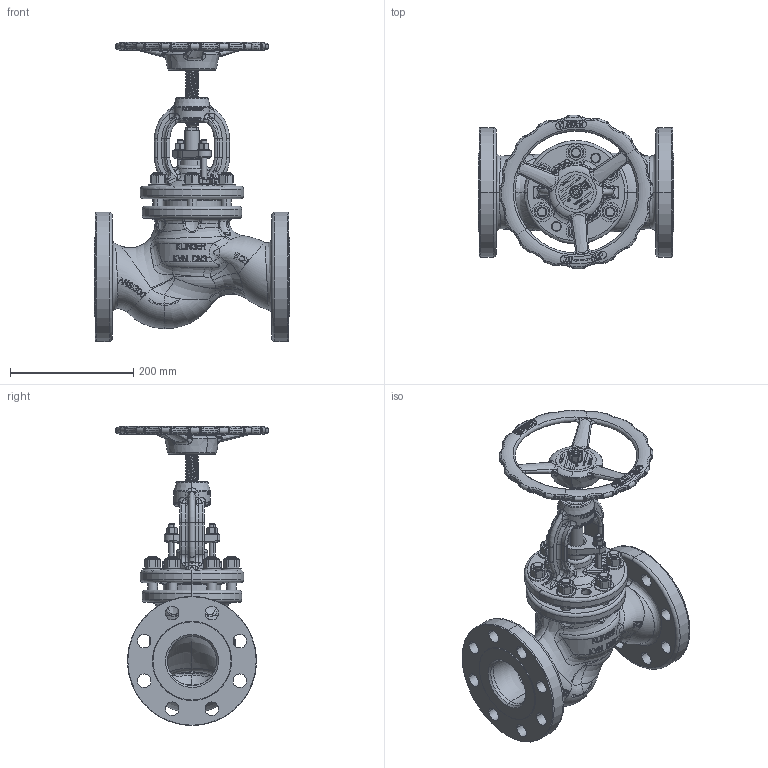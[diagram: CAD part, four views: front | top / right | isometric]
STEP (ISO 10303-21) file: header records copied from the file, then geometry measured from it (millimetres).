
FILE_DESCRIPTION((''),'2;1');
FILE_NAME('KVNFL-3-S-----C300PGG_SW0001','2018-12-12T13:18:16',('jeitlers'),('KLINGER'),'CREO PARAMETRIC BY PTC INC, 2018190','CREO PARAMETRIC BY PTC INC, 2018190','');
FILE_SCHEMA(('AUTOMOTIVE_DESIGN { 1 0 10303 214 1 1 1 1 }'));
Products named in the file (1): KVNFL-3-S-----C300PGG_SW0001
Bounding box: 318 x 249.98 x 486.1 mm (x, y, z)
Volume: 4762305.5 mm3; surface area: 753006.6 mm2
Topology: 2 solids, 13 shells, 4867 faces, 12746 edges, 8018 vertices
Faces by surface type: plane 2680, bspline 821, cylinder 712, torus 354, cone 242, sphere 58
Entity records: 306453 total; most frequent: CARTESIAN_POINT 195019, ORIENTED_EDGE 25484, DIRECTION 19758, EDGE_CURVE 12742, VERTEX_POINT 8018, AXIS2_PLACEMENT_3D 6960, VECTOR 5835, LINE 5835
